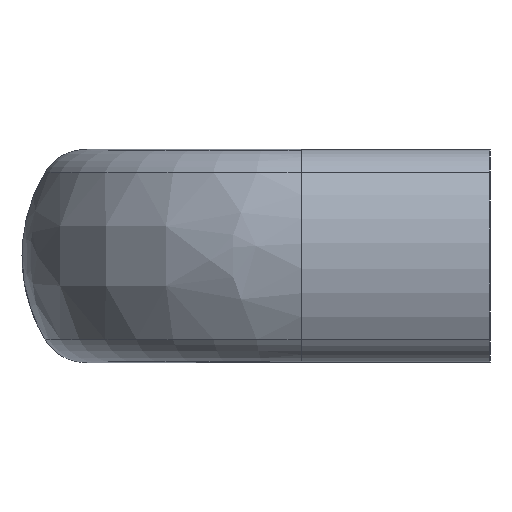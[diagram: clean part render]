
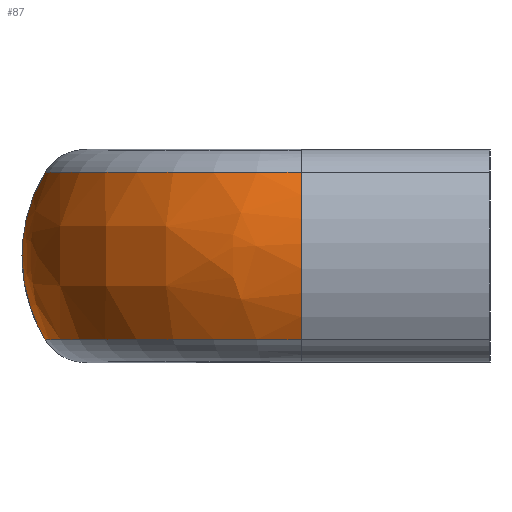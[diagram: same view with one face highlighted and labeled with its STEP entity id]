
A CAD part, left-side view. The second image highlights one B-rep face of the part: STEP entity #87.
In plain terms, the highlighted free-form (B-spline) face has degree [3, 3] with [4, 4] control points.
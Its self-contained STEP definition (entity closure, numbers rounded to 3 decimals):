
#87 = ADVANCED_FACE( '', ( #155 ), #156, .T. );
#155 = FACE_OUTER_BOUND( '', #265, .T. );
#156 = ( BOUNDED_SURFACE(  )B_SPLINE_SURFACE( 3, 3, ( ( #268, #269, #270, #271 ), ( #272, #273, #274, #275 ), ( #276, #277, #278, #279 ), ( #280, #281, #282, #283 ) ), .UNSPECIFIED., .F., .F., .F. )B_SPLINE_SURFACE_WITH_KNOTS( ( 4, 4 ), ( 4, 4 ), ( 1.571, 3.142 ), ( -0.537, 0.537 ), .UNSPECIFIED. )GEOMETRIC_REPRESENTATION_ITEM(  )RATIONAL_B_SPLINE_SURFACE( ( ( 1., 0.805, 0.805, 1. ), ( 0.906, 0.729, 0.729, 0.906 ), ( 0.906, 0.729, 0.729, 0.906 ), ( 1., 0.805, 0.805, 1. ) ) )REPRESENTATION_ITEM( '' )SURFACE(  ) );
#265 = EDGE_LOOP( '', ( #477, #478, #479, #480, #481 ) );
#268 = CARTESIAN_POINT( '', ( -54.5, 54.189, 10.177 ) );
#269 = CARTESIAN_POINT( '', ( -72.77, 54.189, 10.177 ) );
#270 = CARTESIAN_POINT( '', ( -85.689, 41.27, 10.177 ) );
#271 = CARTESIAN_POINT( '', ( -85.689, 23., 10.177 ) );
#272 = CARTESIAN_POINT( '', ( -54.5, 58.02, 3.744 ) );
#273 = CARTESIAN_POINT( '', ( -75.014, 58.02, 3.744 ) );
#274 = CARTESIAN_POINT( '', ( -89.52, 43.514, 3.744 ) );
#275 = CARTESIAN_POINT( '', ( -89.52, 23., 3.744 ) );
#276 = CARTESIAN_POINT( '', ( -54.5, 58.02, -3.744 ) );
#277 = CARTESIAN_POINT( '', ( -75.014, 58.02, -3.744 ) );
#278 = CARTESIAN_POINT( '', ( -89.52, 43.514, -3.744 ) );
#279 = CARTESIAN_POINT( '', ( -89.52, 23., -3.744 ) );
#280 = CARTESIAN_POINT( '', ( -54.5, 54.189, -10.177 ) );
#281 = CARTESIAN_POINT( '', ( -72.77, 54.189, -10.177 ) );
#282 = CARTESIAN_POINT( '', ( -85.689, 41.27, -10.177 ) );
#283 = CARTESIAN_POINT( '', ( -85.689, 23., -10.177 ) );
#477 = ORIENTED_EDGE( '', *, *, #834, .T. );
#478 = ORIENTED_EDGE( '', *, *, #835, .F. );
#479 = ORIENTED_EDGE( '', *, *, #836, .F. );
#480 = ORIENTED_EDGE( '', *, *, #806, .T. );
#481 = ORIENTED_EDGE( '', *, *, #805, .T. );
#805 = EDGE_CURVE( '', #941, #942, #943, .T. );
#806 = EDGE_CURVE( '', #944, #941, #945, .T. );
#834 = EDGE_CURVE( '', #942, #994, #996, .T. );
#835 = EDGE_CURVE( '', #997, #994, #998, .T. );
#836 = EDGE_CURVE( '', #944, #997, #999, .T. );
#941 = VERTEX_POINT( '', #1149 );
#942 = VERTEX_POINT( '', #1150 );
#943 = B_SPLINE_CURVE_WITH_KNOTS( '', 3, ( #1151, #1152, #1153, #1154, #1155, #1156 ), .UNSPECIFIED., .F., .F., ( 4, 2, 4 ), ( 0., 0.5, 1. ), .UNSPECIFIED. );
#944 = VERTEX_POINT( '', #1157 );
#945 = B_SPLINE_CURVE_WITH_KNOTS( '', 3, ( #1158, #1159, #1160, #1161, #1162, #1163 ), .UNSPECIFIED., .F., .F., ( 4, 2, 4 ), ( 0., 0.5, 1. ), .UNSPECIFIED. );
#994 = VERTEX_POINT( '', #1246 );
#996 = CIRCLE( '', #1248, 31.189 );
#997 = VERTEX_POINT( '', #1249 );
#998 = CIRCLE( '', #1250, 19.889 );
#999 = CIRCLE( '', #1251, 31.189 );
#1149 = CARTESIAN_POINT( '', ( -54.5, 56.995, 0.043 ) );
#1150 = CARTESIAN_POINT( '', ( -54.5, 54.189, -10.184 ) );
#1151 = CARTESIAN_POINT( '', ( -54.5, 56.99, 0.043 ) );
#1152 = CARTESIAN_POINT( '', ( -54.5, 56.994, -1.745 ) );
#1153 = CARTESIAN_POINT( '', ( -54.5, 56.755, -3.533 ) );
#1154 = CARTESIAN_POINT( '', ( -54.5, 55.81, -6.981 ) );
#1155 = CARTESIAN_POINT( '', ( -54.5, 55.104, -8.641 ) );
#1156 = CARTESIAN_POINT( '', ( -54.5, 54.189, -10.177 ) );
#1157 = CARTESIAN_POINT( '', ( -54.5, 54.188, 10.185 ) );
#1158 = CARTESIAN_POINT( '', ( -54.5, 54.189, 10.177 ) );
#1159 = CARTESIAN_POINT( '', ( -54.5, 55.097, 8.653 ) );
#1160 = CARTESIAN_POINT( '', ( -54.5, 55.799, 7.008 ) );
#1161 = CARTESIAN_POINT( '', ( -54.5, 56.744, 3.589 ) );
#1162 = CARTESIAN_POINT( '', ( -54.5, 56.986, 1.816 ) );
#1163 = CARTESIAN_POINT( '', ( -54.5, 56.99, 0.043 ) );
#1246 = CARTESIAN_POINT( '', ( -85.689, 23., -10.177 ) );
#1248 = AXIS2_PLACEMENT_3D( '', #1481, #1482, #1483 );
#1249 = CARTESIAN_POINT( '', ( -85.689, 23., 10.177 ) );
#1250 = AXIS2_PLACEMENT_3D( '', #1484, #1485, #1486 );
#1251 = AXIS2_PLACEMENT_3D( '', #1487, #1488, #1489 );
#1481 = CARTESIAN_POINT( '', ( -54.5, 23., -10.177 ) );
#1482 = DIRECTION( '', ( 0., 0., 1. ) );
#1483 = DIRECTION( '', ( 1., 0., 0. ) );
#1484 = CARTESIAN_POINT( '', ( -68.601, 23., 0. ) );
#1485 = DIRECTION( '', ( 0., -1., 0. ) );
#1486 = DIRECTION( '', ( 0., 0., 1. ) );
#1487 = CARTESIAN_POINT( '', ( -54.5, 23., 10.177 ) );
#1488 = DIRECTION( '', ( 0., 0., 1. ) );
#1489 = DIRECTION( '', ( 1., 0., 0. ) );
